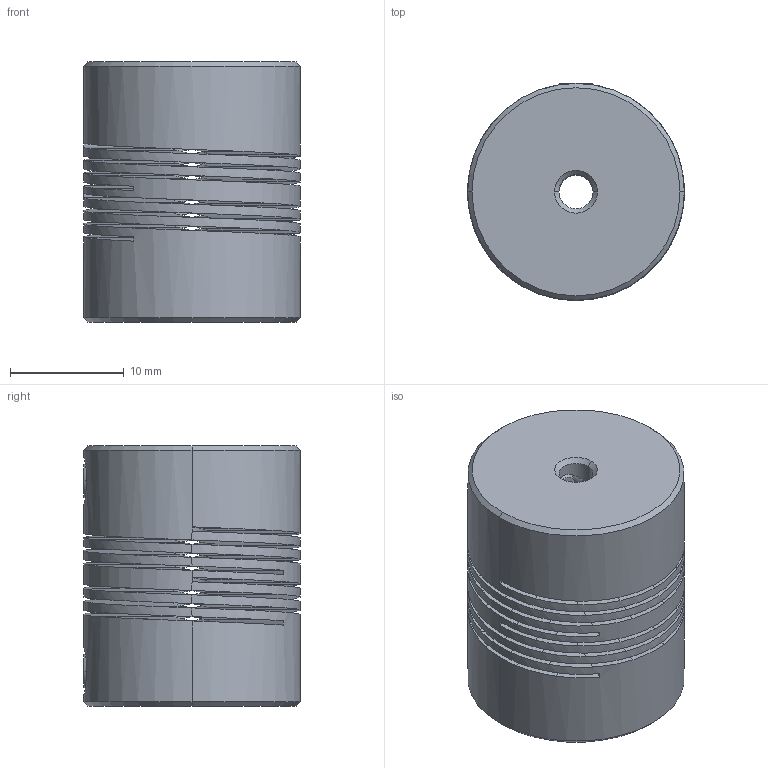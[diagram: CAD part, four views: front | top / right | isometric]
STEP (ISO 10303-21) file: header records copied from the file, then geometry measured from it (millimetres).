
FILE_DESCRIPTION((''),'2;1');
FILE_NAME('PSMR19-3-3-A','2016-09-08T',('SYSTEM'),(''),'PRO/ENGINEER BY PARAMETRIC TECHNOLOGY CORPORATION, 2015110','PRO/ENGINEER BY PARAMETRIC TECHNOLOGY CORPORATION, 2015110','');
FILE_SCHEMA(('AUTOMOTIVE_DESIGN { 1 0 10303 214 1 1 1 1 }'));
Length unit declared in the file: millimetre
Products named in the file (1): PSMR19-3-3-A
Bounding box: 19.05 x 19.05 x 22.86 mm (x, y, z)
Volume: 5558.6 mm3; surface area: 5989 mm2
Topology: 3 solids, 3 shells, 290 faces, 824 edges, 532 vertices
Faces by surface type: bspline 196, cylinder 42, plane 32, cone 20
Entity records: 17143 total; most frequent: CARTESIAN_POINT 8503, ORIENTED_EDGE 1648, PRESENTATION_STYLE_ASSIGNMENT 827, STYLED_ITEM 827, CURVE_STYLE 824, EDGE_CURVE 824, DIRECTION 608, VERTEX_POINT 532
